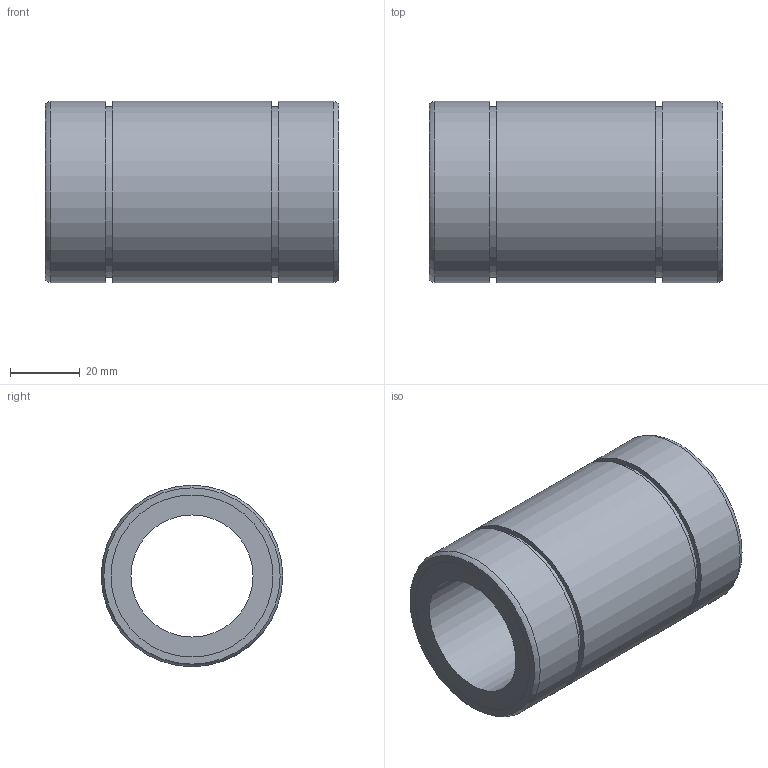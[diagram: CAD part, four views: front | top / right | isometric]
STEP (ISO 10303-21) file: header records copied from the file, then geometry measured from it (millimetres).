
FILE_DESCRIPTION((''),'2;1');
FILE_NAME('C:\Documents and Settings\土屋\My Documents\土屋移動用フォルダ\製品 (図面)\カタログ用3D\変換ファイル\OZAK_3D-CAD(STEP形式)\Part1.-Linear Bearings_ﾘﾆｱﾍﾞｱﾘﾝｸﾞ\09_Maintenance Free_ﾒｲﾝﾃﾅﾝｽﾌﾘｰ\L2017-09-21T11:41:12','2017-09-21T11:41:12',('y'),(''),'Autodesk Inventor 11','Autodesk Inventor 11','');
FILE_SCHEMA(('AUTOMOTIVE_DESIGN { 1 0 10303 214 1 1 1 1 }'));
Length unit declared in the file: millimetre
Products named in the file (1): L-MF
Bounding box: 84 x 52 x 52 mm (x, y, z)
Volume: 96278 mm3; surface area: 26014.8 mm2
Topology: 1 solids, 1 shells, 18 faces, 28 edges, 18 vertices
Faces by surface type: cylinder 8, plane 8, torus 2
Full cylindrical faces by diameter (mm): 35 x1, 46.4 x2, 49 x2, 52 x3
Entity records: 391 total; most frequent: DIRECTION 74, CARTESIAN_POINT 55, AXIS2_PLACEMENT_3D 37, ORIENTED_EDGE 36, EDGE_LOOP 36, VERTEX_POINT 18, CIRCLE 18, EDGE_CURVE 18
